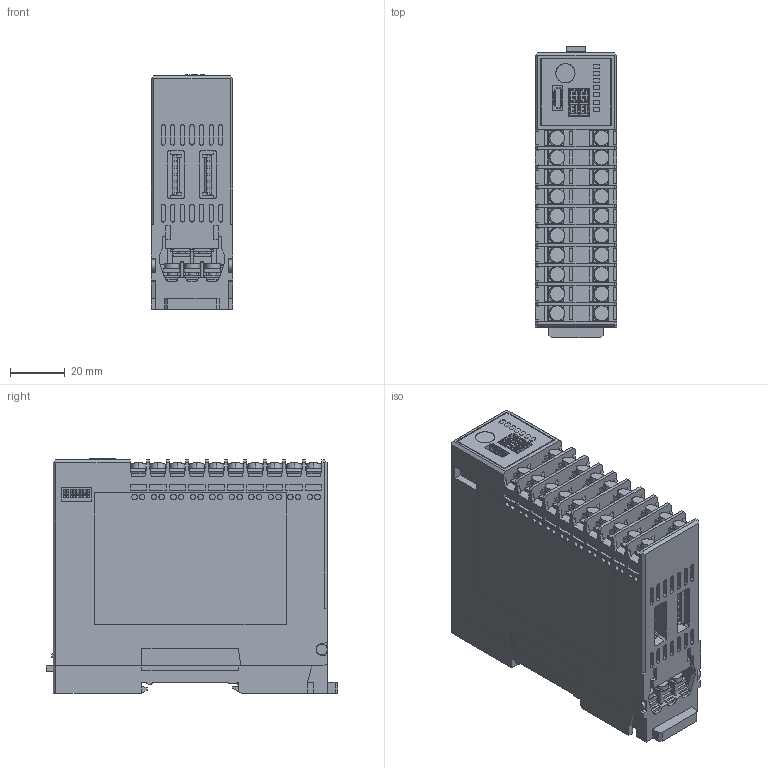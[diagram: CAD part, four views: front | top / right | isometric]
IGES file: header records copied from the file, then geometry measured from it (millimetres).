
Start section: SolidWorks IGES file using analytic representation for surfaces
Global section: file name: \\Mecha-dt\data\mecha_3d\Q\Q僔儕乕僘\QTC1-4\D20-005\HP-3D\QTC1-4PT_iges\QTC1-4xT_230515.IGS; native system: SolidWorks 2022; preprocessor: SolidWorks 2022; author: soyama; date: 230515.152521; units: millimetre
Bounding box: 29.8 x 106.3 x 85.6 mm (x, y, z)
Surface area: 48450.7 mm2 (no closed solid volume)
Topology: 0 solids, 0 shells, 2128 faces, 18368 edges, 18366 vertices
Faces by surface type: bspline 1705, revolution 423
